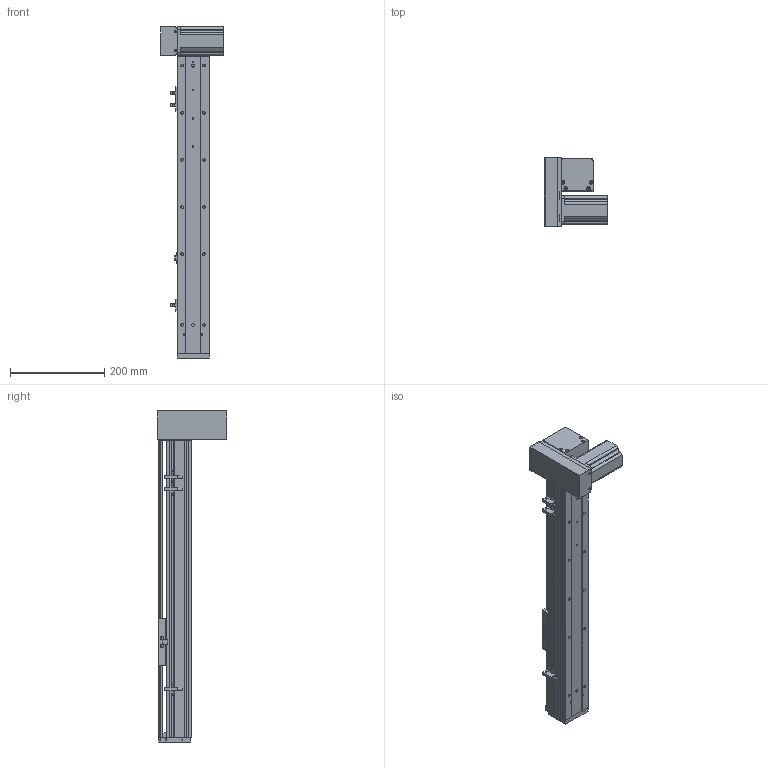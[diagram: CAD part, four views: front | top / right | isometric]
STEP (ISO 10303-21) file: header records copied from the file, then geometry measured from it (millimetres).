
FILE_DESCRIPTION (( 'STEP AP203' ), '1' );
FILE_NAME ('ML68-S450-DR.STEP', '2016-08-05T00:42:02', ( '' ), ( '' ), 'SwSTEP 2.0', 'SolidWorks 2014', '' );
FILE_SCHEMA (( 'CONFIG_CONTROL_DESIGN' ));
Length unit declared in the file: millimetre
Products named in the file (12): ML68傷啣; 三协电机MH201N2_預設; ML68-BL傷啣; ML68-S450-DR; 換覜ん; ML68奻裔^ML68-S450-DR; ML68雄赽釱; 60換覜結え; QS68酘衵殏萇儂啣; ML68滅鳥啣盓傅輸; 葩璃 ML68菁釱^ML68-S450-DR; QS68左右折电机板罩子
Assembly tree (13 placements, depth 2):
  ML68-S450-DR
    葩璃 ML68菁釱^ML68-S450-DR
    ML68奻裔^ML68-S450-DR
    ML68傷啣
    ML68-BL傷啣
    60換覜結え
    換覜ん  x3
    三协电机MH201N2_預設
    ML68雄赽釱
    QS68酘衵殏萇儂啣
    QS68左右折电机板罩子
    ML68滅鳥啣盓傅輸
Bounding box: 133.5 x 148 x 704 mm (x, y, z)
Volume: 1488346.9 mm3; surface area: 535419.8 mm2
Topology: 13 solids, 13 shells, 887 faces, 2426 edges, 1537 vertices
Faces by surface type: cylinder 402, plane 389, cone 96
Entity records: 27982 total; most frequent: CARTESIAN_POINT 5278, DIRECTION 4592, ORIENTED_EDGE 4352, EDGE_CURVE 2176, AXIS2_PLACEMENT_3D 1655, VERTEX_POINT 1425, VECTOR 1282, LINE 1282
